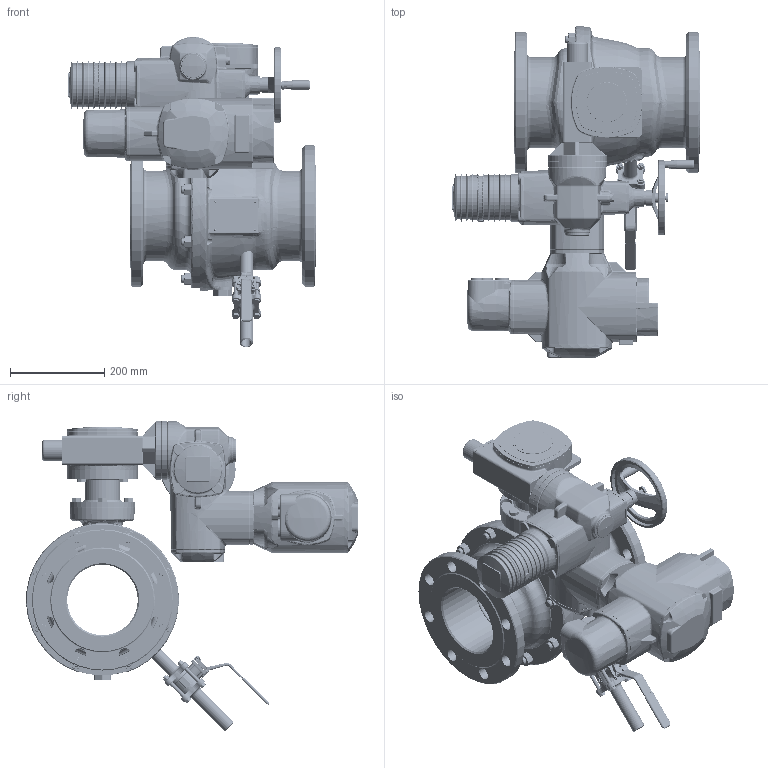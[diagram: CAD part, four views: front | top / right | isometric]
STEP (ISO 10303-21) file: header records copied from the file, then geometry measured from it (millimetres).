
FILE_DESCRIPTION((''),'2;1');
FILE_NAME('250_ASM','2017-01-17T',('schwaba'),('RAND'),'PRO/ENGINEER BY PARAMETRIC TECHNOLOGY CORPORATION, 2016100','PRO/ENGINEER BY PARAMETRIC TECHNOLOGY CORPORATION, 2016100','');
FILE_SCHEMA(('CONFIG_CONTROL_DESIGN'));
Products named in the file (3): KHI_150_PN25-40_FR_WE_ENTL_O_IT; GS63_F12_SA07_AM_ZWSTK_DN150; 250_ASM
Assembly tree (2 placements, depth 2):
  250_ASM
    KHI_150_PN25-40_FR_WE_ENTL_O_IT
    GS63_F12_SA07_AM_ZWSTK_DN150
Bounding box: 525 x 705.43 x 659.29 mm (x, y, z)
Volume: 26710349.3 mm3; surface area: 2197725.7 mm2
Topology: 3 solids, 8 shells, 5941 faces, 14475 edges, 8688 vertices
Faces by surface type: plane 1868, bspline 1357, cylinder 1228, torus 691, cone 667, sphere 130
Entity records: 364778 total; most frequent: CARTESIAN_POINT 234544, ORIENTED_EDGE 28818, DIRECTION 25289, EDGE_CURVE 14409, AXIS2_PLACEMENT_3D 9854, VERTEX_POINT 8687, EDGE_LOOP 6254, FACE_OUTER_BOUND 5940
